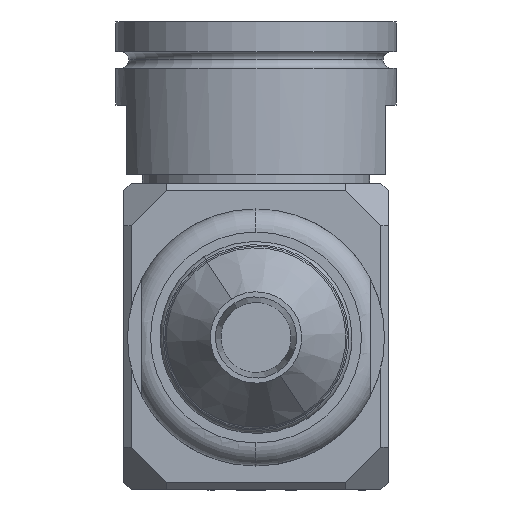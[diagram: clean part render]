
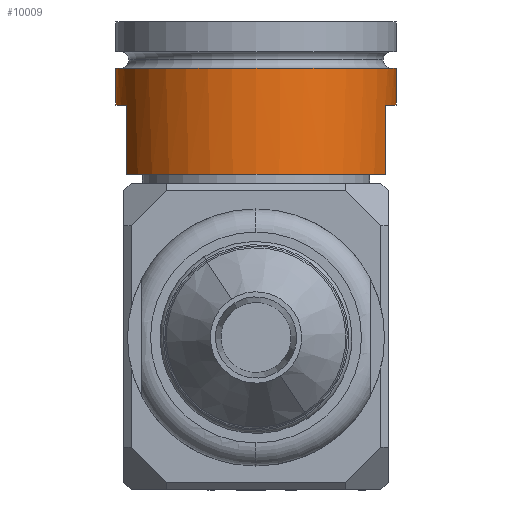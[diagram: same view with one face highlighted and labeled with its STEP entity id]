
A CAD part, front view. The second image highlights one B-rep face of the part: STEP entity #10009.
In plain terms, the highlighted cylindrical face has radius 19.291 mm (diameter 38.583 mm), a partial arc.
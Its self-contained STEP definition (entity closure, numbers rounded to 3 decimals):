
#70 = CYLINDRICAL_SURFACE ( 'NONE', #5094, 19.291 ) ;
#229 = ORIENTED_EDGE ( 'NONE', *, *, #6676, .F. ) ;
#265 = LINE ( 'NONE', #4647, #9331 ) ;
#783 = DIRECTION ( 'NONE',  ( 0., 0., -1. ) ) ;
#798 = EDGE_CURVE ( 'NONE', #6171, #7188, #4264, .T. ) ;
#839 = DIRECTION ( 'NONE',  ( 1., 0., 0. ) ) ;
#874 = ORIENTED_EDGE ( 'NONE', *, *, #1142, .F. ) ;
#1119 = AXIS2_PLACEMENT_3D ( 'NONE', #1606, #1710, #4282 ) ;
#1142 = EDGE_CURVE ( 'NONE', #3624, #9957, #7078, .T. ) ;
#1606 = CARTESIAN_POINT ( 'NONE',  ( 0., 0., -2.972 ) ) ;
#1710 = DIRECTION ( 'NONE',  ( 0., 0., -1. ) ) ;
#2054 = ORIENTED_EDGE ( 'NONE', *, *, #6294, .F. ) ;
#2243 = DIRECTION ( 'NONE',  ( 1., 0., 0. ) ) ;
#2281 = VERTEX_POINT ( 'NONE', #5692 ) ;
#2345 = VERTEX_POINT ( 'NONE', #3450 ) ;
#2406 = DIRECTION ( 'NONE',  ( 0., 0., -1. ) ) ;
#2438 = CARTESIAN_POINT ( 'NONE',  ( -17.78, -7.485, -2.972 ) ) ;
#2649 = LINE ( 'NONE', #2438, #9770 ) ;
#2880 = DIRECTION ( 'NONE',  ( 0., 0., -1. ) ) ;
#2933 = AXIS2_PLACEMENT_3D ( 'NONE', #7693, #3504, #6020 ) ;
#3042 = CARTESIAN_POINT ( 'NONE',  ( 17.78, -7.485, -2.972 ) ) ;
#3450 = CARTESIAN_POINT ( 'NONE',  ( -17.78, -7.485, -2.972 ) ) ;
#3504 = DIRECTION ( 'NONE',  ( 0., 0., -1. ) ) ;
#3515 = VERTEX_POINT ( 'NONE', #5802 ) ;
#3624 = VERTEX_POINT ( 'NONE', #3042 ) ;
#3874 = LINE ( 'NONE', #3993, #8454 ) ;
#3896 = EDGE_LOOP ( 'NONE', ( #5456, #7272, #6946, #8488, #4182, #874, #2054, #229 ) ) ;
#3993 = CARTESIAN_POINT ( 'NONE',  ( 19.291, 0., 8.458 ) ) ;
#4182 = ORIENTED_EDGE ( 'NONE', *, *, #7723, .F. ) ;
#4264 = CIRCLE ( 'NONE', #10503, 19.291 ) ;
#4282 = DIRECTION ( 'NONE',  ( 1., 0., 0. ) ) ;
#4393 = CARTESIAN_POINT ( 'NONE',  ( 0., 0., 2.108 ) ) ;
#4647 = CARTESIAN_POINT ( 'NONE',  ( -19.291, 0., 8.458 ) ) ;
#4689 = AXIS2_PLACEMENT_3D ( 'NONE', #7263, #2406, #2243 ) ;
#4762 = EDGE_CURVE ( 'NONE', #2345, #3515, #7736, .T. ) ;
#5094 = AXIS2_PLACEMENT_3D ( 'NONE', #8458, #783, #839 ) ;
#5456 = ORIENTED_EDGE ( 'NONE', *, *, #798, .T. ) ;
#5523 = DIRECTION ( 'NONE',  ( 0., 0., -1. ) ) ;
#5573 = CIRCLE ( 'NONE', #4689, 19.291 ) ;
#5692 = CARTESIAN_POINT ( 'NONE',  ( 19.291, 0., -2.972 ) ) ;
#5802 = CARTESIAN_POINT ( 'NONE',  ( -19.291, 0., -2.972 ) ) ;
#5838 = DIRECTION ( 'NONE',  ( 0., 0., -1. ) ) ;
#5956 = CIRCLE ( 'NONE', #1119, 19.291 ) ;
#6020 = DIRECTION ( 'NONE',  ( -1., 0., 0. ) ) ;
#6168 = CARTESIAN_POINT ( 'NONE',  ( -17.78, -7.485, -12.497 ) ) ;
#6171 = VERTEX_POINT ( 'NONE', #10047 ) ;
#6294 = EDGE_CURVE ( 'NONE', #2281, #3624, #5956, .T. ) ;
#6676 = EDGE_CURVE ( 'NONE', #6171, #2281, #3874, .T. ) ;
#6719 = CARTESIAN_POINT ( 'NONE',  ( 17.78, -7.485, -12.497 ) ) ;
#6945 = DIRECTION ( 'NONE',  ( 1., 0., 0. ) ) ;
#6946 = ORIENTED_EDGE ( 'NONE', *, *, #4762, .F. ) ;
#7078 = LINE ( 'NONE', #7977, #9983 ) ;
#7188 = VERTEX_POINT ( 'NONE', #8663 ) ;
#7263 = CARTESIAN_POINT ( 'NONE',  ( 0., 0., -12.497 ) ) ;
#7272 = ORIENTED_EDGE ( 'NONE', *, *, #7576, .T. ) ;
#7576 = EDGE_CURVE ( 'NONE', #7188, #3515, #265, .T. ) ;
#7693 = CARTESIAN_POINT ( 'NONE',  ( 0., 0., -2.972 ) ) ;
#7722 = FACE_OUTER_BOUND ( 'NONE', #3896, .T. ) ;
#7723 = EDGE_CURVE ( 'NONE', #9957, #8894, #5573, .T. ) ;
#7736 = CIRCLE ( 'NONE', #2933, 19.291 ) ;
#7977 = CARTESIAN_POINT ( 'NONE',  ( 17.78, -7.485, -2.972 ) ) ;
#8045 = DIRECTION ( 'NONE',  ( 0., 0., -1. ) ) ;
#8454 = VECTOR ( 'NONE', #10803, 1000. ) ;
#8458 = CARTESIAN_POINT ( 'NONE',  ( 0., 0., 8.458 ) ) ;
#8488 = ORIENTED_EDGE ( 'NONE', *, *, #10392, .T. ) ;
#8663 = CARTESIAN_POINT ( 'NONE',  ( -19.291, 0., 2.108 ) ) ;
#8894 = VERTEX_POINT ( 'NONE', #6168 ) ;
#9331 = VECTOR ( 'NONE', #8045, 1000. ) ;
#9770 = VECTOR ( 'NONE', #5838, 1000. ) ;
#9957 = VERTEX_POINT ( 'NONE', #6719 ) ;
#9983 = VECTOR ( 'NONE', #5523, 1000. ) ;
#10009 = ADVANCED_FACE ( 'NONE', ( #7722 ), #70, .T. ) ;
#10047 = CARTESIAN_POINT ( 'NONE',  ( 19.291, 0., 2.108 ) ) ;
#10392 = EDGE_CURVE ( 'NONE', #2345, #8894, #2649, .T. ) ;
#10503 = AXIS2_PLACEMENT_3D ( 'NONE', #4393, #2880, #6945 ) ;
#10803 = DIRECTION ( 'NONE',  ( 0., 0., -1. ) ) ;
